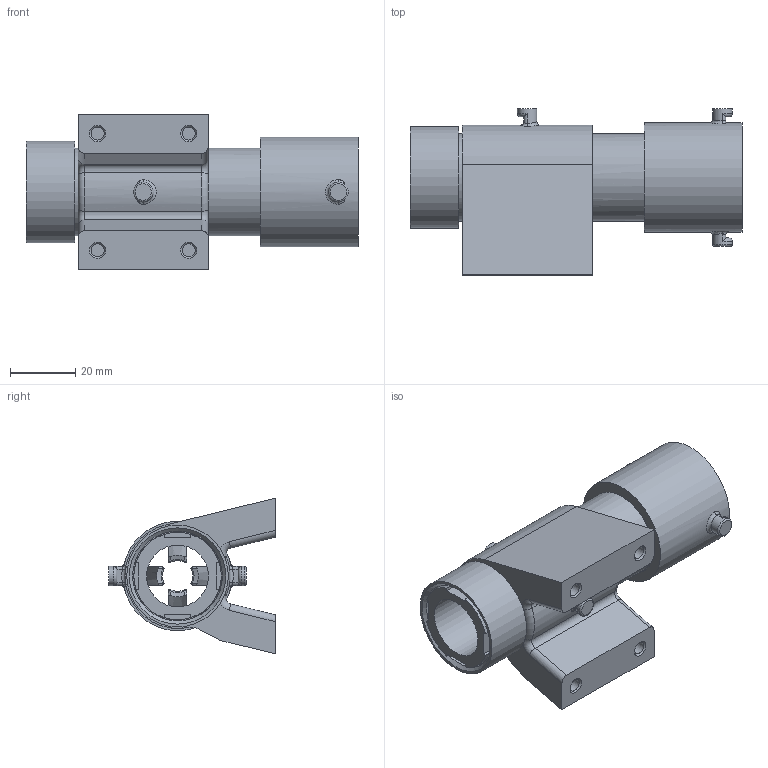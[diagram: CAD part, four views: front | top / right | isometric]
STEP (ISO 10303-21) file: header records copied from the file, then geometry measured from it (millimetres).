
FILE_DESCRIPTION(/* description */ (''),/* implementation_level */ '2;1');
FILE_NAME(/* name */ '',/* time_stamp */ '2026-01-09T14:15:38+03:00',/* author */ (''),/* organization */ (''),/* preprocessor_version */ 'ST-DEVELOPER v20.1',/* originating_system */ 'Autodesk Translation Framework v14.21.0.0',/* authorisation */ '');
FILE_SCHEMA (('AUTOMOTIVE_DESIGN { 1 0 10303 214 3 1 1 }'));
Length unit declared in the file: millimetre
Products named in the file (1): МАРКЕР
Bounding box: 102 x 51.1 x 47.86 mm (x, y, z)
Volume: 56725.2 mm3; surface area: 36958.1 mm2
Topology: 4 solids, 4 shells, 197 faces, 507 edges, 320 vertices
Faces by surface type: cylinder 60, plane 59, bspline 32, torus 19, cone 19, sphere 8
Full cylindrical faces by diameter (mm): 1.5 x3, 4 x4, 6 x4, 19 x1, 23 x1, 24.529 x3, 25.323 x5, 26.822 x4, 27.556 x4, 27.6 x1, 28.2 x1, 31.2 x1, 33.6 x1
Entity records: 11222 total; most frequent: CARTESIAN_POINT 6672, ORIENTED_EDGE 1006, DIRECTION 846, EDGE_CURVE 503, AXIS2_PLACEMENT_3D 347, VERTEX_POINT 320, EDGE_LOOP 217, FACE_OUTER_BOUND 197
